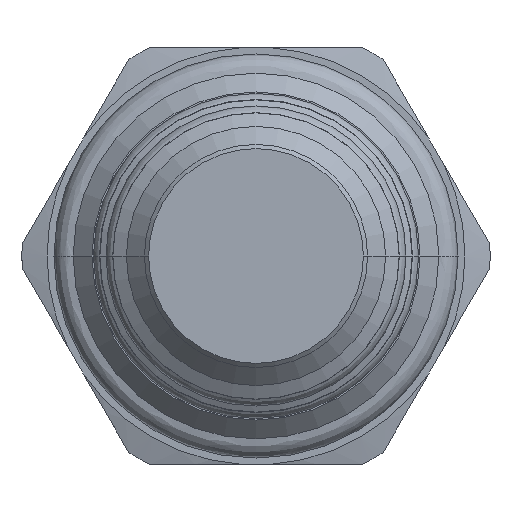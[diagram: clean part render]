
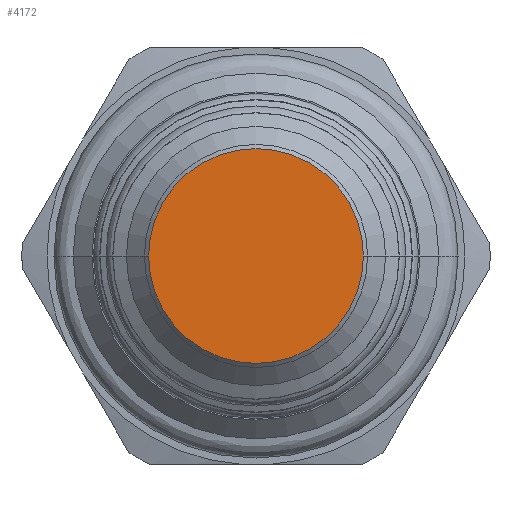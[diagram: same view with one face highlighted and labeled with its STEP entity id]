
A CAD part, front view. The second image highlights one B-rep face of the part: STEP entity #4172.
In plain terms, the highlighted planar face has unit normal (0, -1, 0).
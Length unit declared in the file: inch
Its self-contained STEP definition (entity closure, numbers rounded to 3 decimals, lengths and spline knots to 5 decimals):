
#1659=CARTESIAN_POINT('',(0.,-2.438,0.));
#1660=DIRECTION('',(0.,-1.,0.));
#1661=DIRECTION('',(1.,0.,0.));
#1662=AXIS2_PLACEMENT_3D('',#1659,#1660,#1661);
#1673=CARTESIAN_POINT('',(0.,-2.438,0.));
#1674=DIRECTION('',(0.,1.,0.));
#1675=DIRECTION('',(1.,0.,0.));
#1676=AXIS2_PLACEMENT_3D('',#1673,#1674,#1675);
#1865=CARTESIAN_POINT('',(0.257,-2.438,0.));
#1866=CARTESIAN_POINT('',(-0.257,-2.438,0.));
#1867=VERTEX_POINT('',#1865);
#1868=VERTEX_POINT('',#1866);
#4163=CARTESIAN_POINT('',(0.,-2.438,0.));
#4164=DIRECTION('',(0.,1.,0.));
#4165=DIRECTION('',(1.,0.,0.));
#4166=AXIS2_PLACEMENT_3D('',#4163,#4164,#4165);
#4167=PLANE('',#4166);
#4168=ORIENTED_EDGE('',*,*,#4143,.F.);
#4169=ORIENTED_EDGE('',*,*,#4157,.T.);
#4170=EDGE_LOOP('',(#4168,#4169));
#4171=FACE_OUTER_BOUND('',#4170,.F.);
#4172=ADVANCED_FACE('',(#4171),#4167,.F.);
#1663=CIRCLE('',#1662,0.257);
#1677=CIRCLE('',#1676,0.257);
#4143=EDGE_CURVE('',#1867,#1868,#1663,.T.);
#4157=EDGE_CURVE('',#1867,#1868,#1677,.T.);
